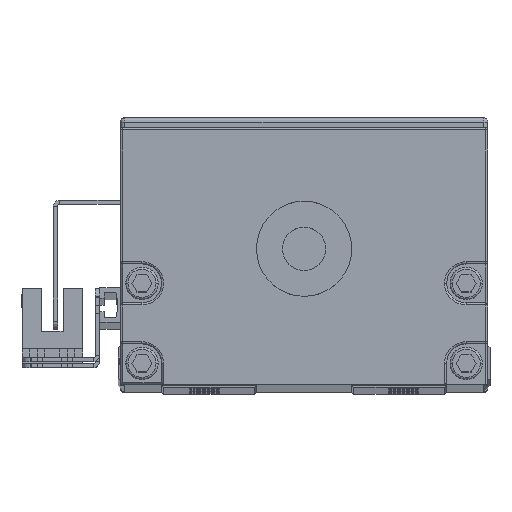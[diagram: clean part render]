
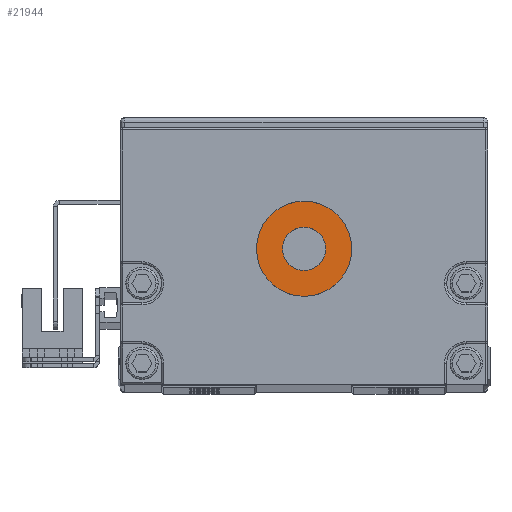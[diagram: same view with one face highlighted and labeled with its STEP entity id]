
A CAD part, top view. The second image highlights one B-rep face of the part: STEP entity #21944.
In plain terms, the highlighted planar face has unit normal (0, 0, 1).
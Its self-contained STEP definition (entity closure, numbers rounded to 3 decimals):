
#1200 = DIRECTION ( 'NONE',  ( 0., 0., 1. ) ) ;
#4849 = AXIS2_PLACEMENT_3D ( 'NONE', #54610, #28416, #37273 ) ;
#5078 = EDGE_CURVE ( 'NONE', #39905, #11501, #36817, .T. ) ;
#6387 = CARTESIAN_POINT ( 'NONE',  ( 0., 32., 949. ) ) ;
#8319 = EDGE_LOOP ( 'NONE', ( #33890, #47574 ) ) ;
#9566 = VERTEX_POINT ( 'NONE', #17168 ) ;
#10184 = DIRECTION ( 'NONE',  ( 0., 0., 1. ) ) ;
#10369 = CARTESIAN_POINT ( 'NONE',  ( 0., 32., 949. ) ) ;
#11501 = VERTEX_POINT ( 'NONE', #17833 ) ;
#12084 = ORIENTED_EDGE ( 'NONE', *, *, #19709, .T. ) ;
#12632 = DIRECTION ( 'NONE',  ( 1., 0., 0. ) ) ;
#14546 = AXIS2_PLACEMENT_3D ( 'NONE', #29977, #48251, #12632 ) ;
#16437 = CIRCLE ( 'NONE', #27117, 5. ) ;
#17168 = CARTESIAN_POINT ( 'NONE',  ( -5., 32., 949. ) ) ;
#17338 = FACE_OUTER_BOUND ( 'NONE', #52516, .T. ) ;
#17407 = EDGE_CURVE ( 'NONE', #45459, #9566, #16437, .T. ) ;
#17833 = CARTESIAN_POINT ( 'NONE',  ( -11., 32., 949. ) ) ;
#19709 = EDGE_CURVE ( 'NONE', #11501, #39905, #19717, .T. ) ;
#19717 = CIRCLE ( 'NONE', #4849, 11. ) ;
#20251 = EDGE_CURVE ( 'NONE', #9566, #45459, #34314, .T. ) ;
#21814 = CARTESIAN_POINT ( 'NONE',  ( 0., 32., 949. ) ) ;
#21944 = ADVANCED_FACE ( 'NONE', ( #17338, #53708 ), #49459, .T. ) ;
#23797 = DIRECTION ( 'NONE',  ( 1., 0., 0. ) ) ;
#26786 = CARTESIAN_POINT ( 'NONE',  ( 11., 32., 949. ) ) ;
#27117 = AXIS2_PLACEMENT_3D ( 'NONE', #10369, #10184, #23797 ) ;
#28416 = DIRECTION ( 'NONE',  ( 0., 0., 1. ) ) ;
#29977 = CARTESIAN_POINT ( 'NONE',  ( 0., 32., 949. ) ) ;
#33890 = ORIENTED_EDGE ( 'NONE', *, *, #20251, .F. ) ;
#34078 = ORIENTED_EDGE ( 'NONE', *, *, #5078, .T. ) ;
#34314 = CIRCLE ( 'NONE', #14546, 5. ) ;
#36631 = AXIS2_PLACEMENT_3D ( 'NONE', #6387, #37647, #51516 ) ;
#36817 = CIRCLE ( 'NONE', #36631, 11. ) ;
#37273 = DIRECTION ( 'NONE',  ( 1., 0., 0. ) ) ;
#37647 = DIRECTION ( 'NONE',  ( 0., 0., 1. ) ) ;
#39905 = VERTEX_POINT ( 'NONE', #26786 ) ;
#44720 = CARTESIAN_POINT ( 'NONE',  ( 5., 32., 949. ) ) ;
#45459 = VERTEX_POINT ( 'NONE', #44720 ) ;
#47574 = ORIENTED_EDGE ( 'NONE', *, *, #17407, .F. ) ;
#48251 = DIRECTION ( 'NONE',  ( 0., 0., 1. ) ) ;
#49459 = PLANE ( 'NONE',  #49522 ) ;
#49522 = AXIS2_PLACEMENT_3D ( 'NONE', #21814, #1200, #54841 ) ;
#51516 = DIRECTION ( 'NONE',  ( 1., 0., 0. ) ) ;
#52516 = EDGE_LOOP ( 'NONE', ( #34078, #12084 ) ) ;
#53708 = FACE_BOUND ( 'NONE', #8319, .T. ) ;
#54610 = CARTESIAN_POINT ( 'NONE',  ( 0., 32., 949. ) ) ;
#54841 = DIRECTION ( 'NONE',  ( 1., 0., 0. ) ) ;
